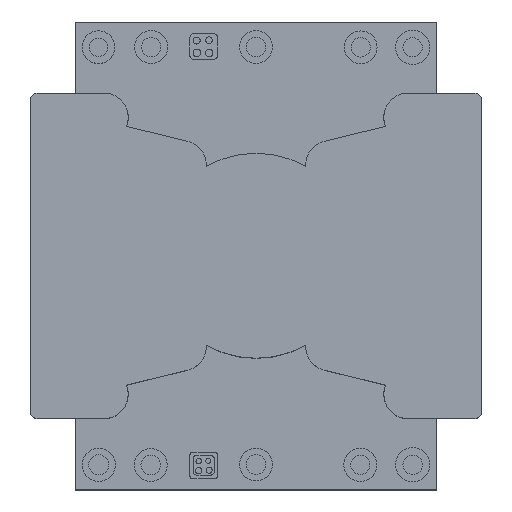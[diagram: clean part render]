
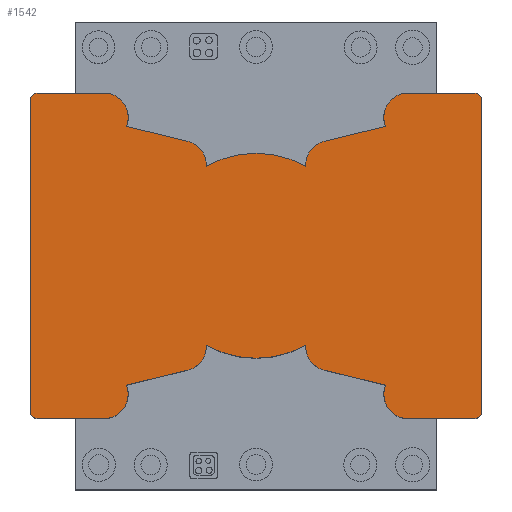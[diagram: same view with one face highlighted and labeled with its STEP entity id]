
A CAD part, top view. The second image highlights one B-rep face of the part: STEP entity #1542.
In plain terms, the highlighted planar face has unit normal (0, 0, 1).
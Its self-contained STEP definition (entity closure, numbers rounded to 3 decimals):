
#507 = VERTEX_POINT('',#508);
#508 = CARTESIAN_POINT('',(-13.199,9.8,15.5));
#514 = EDGE_CURVE('',#515,#507,#517,.T.);
#515 = VERTEX_POINT('',#516);
#516 = CARTESIAN_POINT('',(-8.9,9.8,15.5));
#517 = LINE('',#518,#519);
#518 = CARTESIAN_POINT('',(-8.9,9.8,15.5));
#519 = VECTOR('',#520,1.);
#520 = DIRECTION('',(-1.,0.,0.));
#635 = VERTEX_POINT('',#636);
#636 = CARTESIAN_POINT('',(-8.9,-9.8,15.5));
#642 = EDGE_CURVE('',#635,#643,#645,.T.);
#643 = VERTEX_POINT('',#644);
#644 = CARTESIAN_POINT('',(-13.199,-9.8,15.5));
#645 = LINE('',#646,#647);
#646 = CARTESIAN_POINT('',(-8.9,-9.8,15.5));
#647 = VECTOR('',#648,1.);
#648 = DIRECTION('',(-1.,0.,0.));
#810 = VERTEX_POINT('',#811);
#811 = CARTESIAN_POINT('',(13.199,-9.8,15.5));
#817 = EDGE_CURVE('',#818,#810,#820,.T.);
#818 = VERTEX_POINT('',#819);
#819 = CARTESIAN_POINT('',(8.9,-9.8,15.5));
#820 = LINE('',#821,#822);
#821 = CARTESIAN_POINT('',(8.9,-9.8,15.5));
#822 = VECTOR('',#823,1.);
#823 = DIRECTION('',(1.,0.,0.));
#1522 = VERTEX_POINT('',#1523);
#1523 = CARTESIAN_POINT('',(-13.599,9.5,15.5));
#1531 = EDGE_CURVE('',#507,#1522,#1532,.T.);
#1532 = CIRCLE('',#1533,0.466);
#1533 = AXIS2_PLACEMENT_3D('',#1534,#1535,#1536);
#1534 = CARTESIAN_POINT('',(-13.163,9.336,15.5));
#1535 = DIRECTION('',(0.,0.,1.));
#1536 = DIRECTION('',(1.,0.,0.));
#1542 = ADVANCED_FACE('',(#1543),#1716,.T.);
#1543 = FACE_BOUND('',#1544,.T.);
#1544 = EDGE_LOOP('',(#1545,#1556,#1565,#1574,#1582,#1589,#1590,#1591,
    #1599,#1606,#1607,#1616,#1624,#1633,#1642,#1651,#1659,#1666,#1667,
    #1676,#1684,#1693,#1701,#1710));
#1545 = ORIENTED_EDGE('',*,*,#1546,.T.);
#1546 = EDGE_CURVE('',#1547,#1549,#1551,.T.);
#1547 = VERTEX_POINT('',#1548);
#1548 = CARTESIAN_POINT('',(4.1,6.9,15.5));
#1549 = VERTEX_POINT('',#1550);
#1550 = CARTESIAN_POINT('',(3.,5.4,15.5));
#1551 = CIRCLE('',#1552,1.461);
#1552 = AXIS2_PLACEMENT_3D('',#1553,#1554,#1555);
#1553 = CARTESIAN_POINT('',(4.459,5.484,15.5));
#1554 = DIRECTION('',(0.,0.,1.));
#1555 = DIRECTION('',(1.,0.,0.));
#1556 = ORIENTED_EDGE('',*,*,#1557,.T.);
#1557 = EDGE_CURVE('',#1549,#1558,#1560,.T.);
#1558 = VERTEX_POINT('',#1559);
#1559 = CARTESIAN_POINT('',(-3.,5.4,15.5));
#1560 = CIRCLE('',#1561,6.177);
#1561 = AXIS2_PLACEMENT_3D('',#1562,#1563,#1564);
#1562 = CARTESIAN_POINT('',(0.,0.,15.5));
#1563 = DIRECTION('',(0.,0.,1.));
#1564 = DIRECTION('',(1.,0.,0.));
#1565 = ORIENTED_EDGE('',*,*,#1566,.T.);
#1566 = EDGE_CURVE('',#1558,#1567,#1569,.T.);
#1567 = VERTEX_POINT('',#1568);
#1568 = CARTESIAN_POINT('',(-4.1,6.9,15.5));
#1569 = CIRCLE('',#1570,1.461);
#1570 = AXIS2_PLACEMENT_3D('',#1571,#1572,#1573);
#1571 = CARTESIAN_POINT('',(-4.459,5.484,15.5));
#1572 = DIRECTION('',(0.,0.,1.));
#1573 = DIRECTION('',(1.,0.,0.));
#1574 = ORIENTED_EDGE('',*,*,#1575,.T.);
#1575 = EDGE_CURVE('',#1567,#1576,#1578,.T.);
#1576 = VERTEX_POINT('',#1577);
#1577 = CARTESIAN_POINT('',(-7.801,7.8,15.5));
#1578 = LINE('',#1579,#1580);
#1579 = CARTESIAN_POINT('',(-4.1,6.9,15.5));
#1580 = VECTOR('',#1581,1.);
#1581 = DIRECTION('',(-0.972,0.236,0.));
#1582 = ORIENTED_EDGE('',*,*,#1583,.T.);
#1583 = EDGE_CURVE('',#1576,#515,#1584,.T.);
#1584 = CIRCLE('',#1585,1.5);
#1585 = AXIS2_PLACEMENT_3D('',#1586,#1587,#1588);
#1586 = CARTESIAN_POINT('',(-9.204,8.331,15.5));
#1587 = DIRECTION('',(0.,0.,1.));
#1588 = DIRECTION('',(1.,0.,0.));
#1589 = ORIENTED_EDGE('',*,*,#514,.T.);
#1590 = ORIENTED_EDGE('',*,*,#1531,.T.);
#1591 = ORIENTED_EDGE('',*,*,#1592,.T.);
#1592 = EDGE_CURVE('',#1522,#1593,#1595,.T.);
#1593 = VERTEX_POINT('',#1594);
#1594 = CARTESIAN_POINT('',(-13.599,-9.5,15.5));
#1595 = LINE('',#1596,#1597);
#1596 = CARTESIAN_POINT('',(-13.599,9.5,15.5));
#1597 = VECTOR('',#1598,1.);
#1598 = DIRECTION('',(0.,-1.,0.));
#1599 = ORIENTED_EDGE('',*,*,#1600,.T.);
#1600 = EDGE_CURVE('',#1593,#643,#1601,.T.);
#1601 = CIRCLE('',#1602,0.466);
#1602 = AXIS2_PLACEMENT_3D('',#1603,#1604,#1605);
#1603 = CARTESIAN_POINT('',(-13.163,-9.336,15.5));
#1604 = DIRECTION('',(0.,0.,1.));
#1605 = DIRECTION('',(1.,0.,0.));
#1606 = ORIENTED_EDGE('',*,*,#642,.F.);
#1607 = ORIENTED_EDGE('',*,*,#1608,.T.);
#1608 = EDGE_CURVE('',#635,#1609,#1611,.T.);
#1609 = VERTEX_POINT('',#1610);
#1610 = CARTESIAN_POINT('',(-7.801,-7.8,15.5));
#1611 = CIRCLE('',#1612,1.5);
#1612 = AXIS2_PLACEMENT_3D('',#1613,#1614,#1615);
#1613 = CARTESIAN_POINT('',(-9.204,-8.331,15.5));
#1614 = DIRECTION('',(0.,0.,1.));
#1615 = DIRECTION('',(1.,0.,0.));
#1616 = ORIENTED_EDGE('',*,*,#1617,.F.);
#1617 = EDGE_CURVE('',#1618,#1609,#1620,.T.);
#1618 = VERTEX_POINT('',#1619);
#1619 = CARTESIAN_POINT('',(-4.1,-6.9,15.5));
#1620 = LINE('',#1621,#1622);
#1621 = CARTESIAN_POINT('',(-4.1,-6.9,15.5));
#1622 = VECTOR('',#1623,1.);
#1623 = DIRECTION('',(-0.972,-0.236,0.));
#1624 = ORIENTED_EDGE('',*,*,#1625,.T.);
#1625 = EDGE_CURVE('',#1618,#1626,#1628,.T.);
#1626 = VERTEX_POINT('',#1627);
#1627 = CARTESIAN_POINT('',(-3.,-5.4,15.5));
#1628 = CIRCLE('',#1629,1.461);
#1629 = AXIS2_PLACEMENT_3D('',#1630,#1631,#1632);
#1630 = CARTESIAN_POINT('',(-4.459,-5.484,15.5));
#1631 = DIRECTION('',(0.,0.,1.));
#1632 = DIRECTION('',(1.,0.,0.));
#1633 = ORIENTED_EDGE('',*,*,#1634,.T.);
#1634 = EDGE_CURVE('',#1626,#1635,#1637,.T.);
#1635 = VERTEX_POINT('',#1636);
#1636 = CARTESIAN_POINT('',(3.,-5.4,15.5));
#1637 = CIRCLE('',#1638,6.177);
#1638 = AXIS2_PLACEMENT_3D('',#1639,#1640,#1641);
#1639 = CARTESIAN_POINT('',(0.,0.,15.5));
#1640 = DIRECTION('',(0.,0.,1.));
#1641 = DIRECTION('',(1.,0.,0.));
#1642 = ORIENTED_EDGE('',*,*,#1643,.T.);
#1643 = EDGE_CURVE('',#1635,#1644,#1646,.T.);
#1644 = VERTEX_POINT('',#1645);
#1645 = CARTESIAN_POINT('',(4.1,-6.9,15.5));
#1646 = CIRCLE('',#1647,1.461);
#1647 = AXIS2_PLACEMENT_3D('',#1648,#1649,#1650);
#1648 = CARTESIAN_POINT('',(4.459,-5.484,15.5));
#1649 = DIRECTION('',(0.,0.,1.));
#1650 = DIRECTION('',(1.,0.,0.));
#1651 = ORIENTED_EDGE('',*,*,#1652,.T.);
#1652 = EDGE_CURVE('',#1644,#1653,#1655,.T.);
#1653 = VERTEX_POINT('',#1654);
#1654 = CARTESIAN_POINT('',(7.801,-7.8,15.5));
#1655 = LINE('',#1656,#1657);
#1656 = CARTESIAN_POINT('',(4.1,-6.9,15.5));
#1657 = VECTOR('',#1658,1.);
#1658 = DIRECTION('',(0.972,-0.236,0.));
#1659 = ORIENTED_EDGE('',*,*,#1660,.T.);
#1660 = EDGE_CURVE('',#1653,#818,#1661,.T.);
#1661 = CIRCLE('',#1662,1.5);
#1662 = AXIS2_PLACEMENT_3D('',#1663,#1664,#1665);
#1663 = CARTESIAN_POINT('',(9.204,-8.331,15.5));
#1664 = DIRECTION('',(0.,0.,1.));
#1665 = DIRECTION('',(1.,0.,0.));
#1666 = ORIENTED_EDGE('',*,*,#817,.T.);
#1667 = ORIENTED_EDGE('',*,*,#1668,.T.);
#1668 = EDGE_CURVE('',#810,#1669,#1671,.T.);
#1669 = VERTEX_POINT('',#1670);
#1670 = CARTESIAN_POINT('',(13.599,-9.5,15.5));
#1671 = CIRCLE('',#1672,0.466);
#1672 = AXIS2_PLACEMENT_3D('',#1673,#1674,#1675);
#1673 = CARTESIAN_POINT('',(13.163,-9.336,15.5));
#1674 = DIRECTION('',(0.,0.,1.));
#1675 = DIRECTION('',(1.,0.,0.));
#1676 = ORIENTED_EDGE('',*,*,#1677,.T.);
#1677 = EDGE_CURVE('',#1669,#1678,#1680,.T.);
#1678 = VERTEX_POINT('',#1679);
#1679 = CARTESIAN_POINT('',(13.599,9.5,15.5));
#1680 = LINE('',#1681,#1682);
#1681 = CARTESIAN_POINT('',(13.599,-9.5,15.5));
#1682 = VECTOR('',#1683,1.);
#1683 = DIRECTION('',(0.,1.,0.));
#1684 = ORIENTED_EDGE('',*,*,#1685,.T.);
#1685 = EDGE_CURVE('',#1678,#1686,#1688,.T.);
#1686 = VERTEX_POINT('',#1687);
#1687 = CARTESIAN_POINT('',(13.199,9.8,15.5));
#1688 = CIRCLE('',#1689,0.466);
#1689 = AXIS2_PLACEMENT_3D('',#1690,#1691,#1692);
#1690 = CARTESIAN_POINT('',(13.163,9.336,15.5));
#1691 = DIRECTION('',(0.,0.,1.));
#1692 = DIRECTION('',(1.,0.,0.));
#1693 = ORIENTED_EDGE('',*,*,#1694,.F.);
#1694 = EDGE_CURVE('',#1695,#1686,#1697,.T.);
#1695 = VERTEX_POINT('',#1696);
#1696 = CARTESIAN_POINT('',(8.9,9.8,15.5));
#1697 = LINE('',#1698,#1699);
#1698 = CARTESIAN_POINT('',(8.9,9.8,15.5));
#1699 = VECTOR('',#1700,1.);
#1700 = DIRECTION('',(1.,0.,0.));
#1701 = ORIENTED_EDGE('',*,*,#1702,.T.);
#1702 = EDGE_CURVE('',#1695,#1703,#1705,.T.);
#1703 = VERTEX_POINT('',#1704);
#1704 = CARTESIAN_POINT('',(7.801,7.8,15.5));
#1705 = CIRCLE('',#1706,1.5);
#1706 = AXIS2_PLACEMENT_3D('',#1707,#1708,#1709);
#1707 = CARTESIAN_POINT('',(9.204,8.331,15.5));
#1708 = DIRECTION('',(0.,0.,1.));
#1709 = DIRECTION('',(1.,0.,0.));
#1710 = ORIENTED_EDGE('',*,*,#1711,.F.);
#1711 = EDGE_CURVE('',#1547,#1703,#1712,.T.);
#1712 = LINE('',#1713,#1714);
#1713 = CARTESIAN_POINT('',(4.1,6.9,15.5));
#1714 = VECTOR('',#1715,1.);
#1715 = DIRECTION('',(0.972,0.236,0.));
#1716 = PLANE('',#1717);
#1717 = AXIS2_PLACEMENT_3D('',#1718,#1719,#1720);
#1718 = CARTESIAN_POINT('',(0.,0.,15.5
    ));
#1719 = DIRECTION('',(0.,0.,1.));
#1720 = DIRECTION('',(1.,0.,0.));
